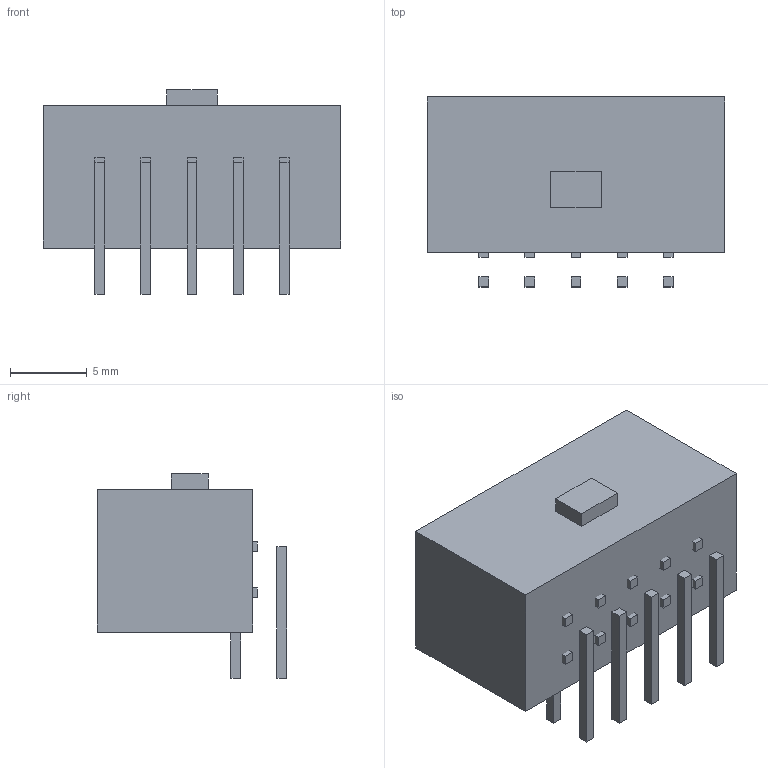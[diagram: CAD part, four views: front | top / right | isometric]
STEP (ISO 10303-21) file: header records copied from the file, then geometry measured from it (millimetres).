
FILE_DESCRIPTION(('Open CASCADE Model'),'2;1');
FILE_NAME('Open CASCADE Shape Model','2026-10-31T16:56:42',('Author'),( 'Open CASCADE'),'Open CASCADE STEP processor 7.9','Open CASCADE 7.9' ,'Unknown');
FILE_SCHEMA(('AUTOMOTIVE_DESIGN { 1 0 10303 214 1 1 1 1 }'));
Length unit declared in the file: millimetre
Products named in the file (12): MicroFit_10_visual; black_shroud; contact_1; contact_2; contact_3; contact_4; contact_5; contact_6; contact_7; contact_8; contact_9; contact_10
Assembly tree (11 placements, depth 2):
  MicroFit_10_visual
    black_shroud
    contact_1
    contact_2
    contact_3
    contact_4
    contact_5
    contact_6
    contact_7
    contact_8
    contact_9
    contact_10
Bounding box: 19.37 x 12.36 x 13.3 mm (x, y, z)
Volume: 1439.7 mm3; surface area: 2095.2 mm2
Topology: 16 solids, 16 shells, 171 faces, 384 edges, 256 vertices
Faces by surface type: plane 171
Entity records: 9853 total; most frequent: CARTESIAN_POINT 1691, DIRECTION 1418, LINE 1052, VECTOR 1052, ORIENTED_EDGE 768, PCURVE 768, DEFINITIONAL_REPRESENTATION 768, EDGE_CURVE 384
